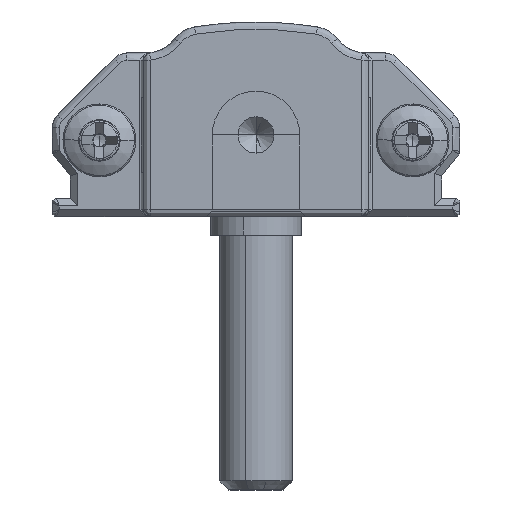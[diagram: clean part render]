
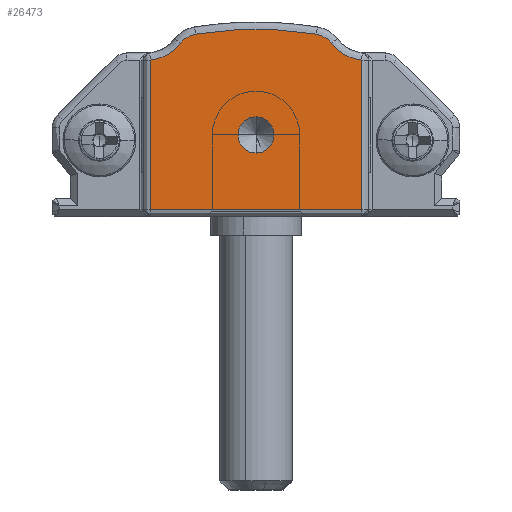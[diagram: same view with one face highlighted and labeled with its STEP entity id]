
A CAD part, front view. The second image highlights one B-rep face of the part: STEP entity #26473.
In plain terms, the highlighted planar face has unit normal (0, -1, 0).
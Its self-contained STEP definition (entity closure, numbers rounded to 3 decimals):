
#108 = VERTEX_POINT ( 'NONE', #7653 ) ;
#305 = CARTESIAN_POINT ( 'NONE',  ( 17., -15., 0.4 ) ) ;
#540 = ORIENTED_EDGE ( 'NONE', *, *, #19722, .T. ) ;
#632 = CARTESIAN_POINT ( 'NONE',  ( 7.892, -15., 10.034 ) ) ;
#833 = CARTESIAN_POINT ( 'NONE',  ( 11.2, -15., 5.5 ) ) ;
#834 = CARTESIAN_POINT ( 'NONE',  ( 11.2, -15., -10.376 ) ) ;
#843 = VERTEX_POINT ( 'NONE', #305 ) ;
#922 = CARTESIAN_POINT ( 'NONE',  ( 17., -15., 0.4 ) ) ;
#1004 = DIRECTION ( 'NONE',  ( 0., 0., -1. ) ) ;
#1079 = DIRECTION ( 'NONE',  ( 1., 0., 0. ) ) ;
#1179 = ORIENTED_EDGE ( 'NONE', *, *, #16811, .T. ) ;
#1608 = CIRCLE ( 'NONE', #18089, 2.4 ) ;
#2398 = DIRECTION ( 'NONE',  ( 0., 0., -1. ) ) ;
#2845 = EDGE_CURVE ( 'NONE', #16185, #843, #5943, .T. ) ;
#2926 = VECTOR ( 'NONE', #1079, 1000. ) ;
#3393 = CARTESIAN_POINT ( 'NONE',  ( 11.2, -15., 3.5 ) ) ;
#3506 = EDGE_CURVE ( 'NONE', #108, #32441, #22585, .T. ) ;
#3589 = CIRCLE ( 'NONE', #16325, 1.3 ) ;
#4608 = DIRECTION ( 'NONE',  ( 0., 0., -1. ) ) ;
#5943 = LINE ( 'NONE', #922, #2926 ) ;
#6055 = EDGE_CURVE ( 'NONE', #843, #14931, #8566, .T. ) ;
#6174 = DIRECTION ( 'NONE',  ( 0., -1., 0. ) ) ;
#7212 = FACE_OUTER_BOUND ( 'NONE', #21965, .T. ) ;
#7372 = DIRECTION ( 'NONE',  ( 0., 0., -1. ) ) ;
#7653 = CARTESIAN_POINT ( 'NONE',  ( 14.508, -15., 10.034 ) ) ;
#8566 = LINE ( 'NONE', #18692, #29287 ) ;
#8666 = VECTOR ( 'NONE', #4608, 1000. ) ;
#8892 = CARTESIAN_POINT ( 'NONE',  ( 7.068, -15., 9.541 ) ) ;
#8905 = DIRECTION ( 'NONE',  ( 0., 0., -1. ) ) ;
#9791 = VERTEX_POINT ( 'NONE', #30704 ) ;
#9981 = DIRECTION ( 'NONE',  ( 0., 0., -1. ) ) ;
#10154 = CARTESIAN_POINT ( 'NONE',  ( 14.3, -15., 8.75 ) ) ;
#10218 = CARTESIAN_POINT ( 'NONE',  ( 11.2, -15., 4.5 ) ) ;
#10581 = CIRCLE ( 'NONE', #17946, 2.4 ) ;
#10741 = ORIENTED_EDGE ( 'NONE', *, *, #31727, .F. ) ;
#11157 = ORIENTED_EDGE ( 'NONE', *, *, #6055, .T. ) ;
#11627 = ORIENTED_EDGE ( 'NONE', *, *, #12289, .F. ) ;
#11732 = VERTEX_POINT ( 'NONE', #8892 ) ;
#11956 = CARTESIAN_POINT ( 'NONE',  ( 5.4, -15., 0.4 ) ) ;
#12289 = EDGE_CURVE ( 'NONE', #23351, #17395, #25322, .T. ) ;
#12498 = DIRECTION ( 'NONE',  ( 0., -1., 0. ) ) ;
#13618 = CARTESIAN_POINT ( 'NONE',  ( 11.2, -15., 4.5 ) ) ;
#13739 = DIRECTION ( 'NONE',  ( 0., 0., 1. ) ) ;
#14868 = PLANE ( 'NONE',  #26158 ) ;
#14931 = VERTEX_POINT ( 'NONE', #24969 ) ;
#15391 = EDGE_CURVE ( 'NONE', #32205, #16185, #24538, .T. ) ;
#15430 = AXIS2_PLACEMENT_3D ( 'NONE', #10218, #29943, #25122 ) ;
#15834 = DIRECTION ( 'NONE',  ( 0., 0., -1. ) ) ;
#16185 = VERTEX_POINT ( 'NONE', #26565 ) ;
#16325 = AXIS2_PLACEMENT_3D ( 'NONE', #10154, #12498, #30699 ) ;
#16811 = EDGE_CURVE ( 'NONE', #14931, #9791, #10581, .T. ) ;
#16993 = CIRCLE ( 'NONE', #15430, 1. ) ;
#17074 = ORIENTED_EDGE ( 'NONE', *, *, #3506, .T. ) ;
#17302 = CARTESIAN_POINT ( 'NONE',  ( 22.15, -15., 3.606 ) ) ;
#17395 = VERTEX_POINT ( 'NONE', #3393 ) ;
#17946 = AXIS2_PLACEMENT_3D ( 'NONE', #24107, #26102, #15834 ) ;
#18089 = AXIS2_PLACEMENT_3D ( 'NONE', #30273, #24041, #2398 ) ;
#18171 = ORIENTED_EDGE ( 'NONE', *, *, #30230, .T. ) ;
#18692 = CARTESIAN_POINT ( 'NONE',  ( 17., -15., 8.612 ) ) ;
#19722 = EDGE_CURVE ( 'NONE', #32441, #11732, #21877, .T. ) ;
#20502 = CARTESIAN_POINT ( 'NONE',  ( 5.4, -15., 8.612 ) ) ;
#21361 = DIRECTION ( 'NONE',  ( 0., -1., 0. ) ) ;
#21877 = CIRCLE ( 'NONE', #31385, 1.3 ) ;
#21930 = ORIENTED_EDGE ( 'NONE', *, *, #32069, .T. ) ;
#21965 = EDGE_LOOP ( 'NONE', ( #11157, #1179, #18171, #17074, #540, #21930, #27301, #25337 ) ) ;
#22141 = AXIS2_PLACEMENT_3D ( 'NONE', #13618, #21361, #8905 ) ;
#22369 = EDGE_LOOP ( 'NONE', ( #10741, #11627 ) ) ;
#22585 = CIRCLE ( 'NONE', #23670, 20.676 ) ;
#23351 = VERTEX_POINT ( 'NONE', #833 ) ;
#23670 = AXIS2_PLACEMENT_3D ( 'NONE', #834, #6174, #1004 ) ;
#24041 = DIRECTION ( 'NONE',  ( 0., 1., 0. ) ) ;
#24107 = CARTESIAN_POINT ( 'NONE',  ( 17.238, -15., 11. ) ) ;
#24538 = LINE ( 'NONE', #11956, #8666 ) ;
#24944 = DIRECTION ( 'NONE',  ( 0., -1., 0. ) ) ;
#24969 = CARTESIAN_POINT ( 'NONE',  ( 17., -15., 8.612 ) ) ;
#25118 = FACE_BOUND ( 'NONE', #22369, .T. ) ;
#25122 = DIRECTION ( 'NONE',  ( 0., 0., -1. ) ) ;
#25322 = CIRCLE ( 'NONE', #22141, 1. ) ;
#25337 = ORIENTED_EDGE ( 'NONE', *, *, #2845, .T. ) ;
#26102 = DIRECTION ( 'NONE',  ( 0., 1., 0. ) ) ;
#26158 = AXIS2_PLACEMENT_3D ( 'NONE', #17302, #24944, #7372 ) ;
#26473 = ADVANCED_FACE ( 'NONE', ( #7212, #25118 ), #14868, .T. ) ;
#26565 = CARTESIAN_POINT ( 'NONE',  ( 5.4, -15., 0.4 ) ) ;
#26760 = CARTESIAN_POINT ( 'NONE',  ( 8.1, -15., 8.75 ) ) ;
#27301 = ORIENTED_EDGE ( 'NONE', *, *, #15391, .T. ) ;
#29071 = DIRECTION ( 'NONE',  ( 0., -1., 0. ) ) ;
#29287 = VECTOR ( 'NONE', #13739, 1000. ) ;
#29943 = DIRECTION ( 'NONE',  ( 0., -1., 0. ) ) ;
#30230 = EDGE_CURVE ( 'NONE', #9791, #108, #3589, .T. ) ;
#30273 = CARTESIAN_POINT ( 'NONE',  ( 5.162, -15., 11. ) ) ;
#30699 = DIRECTION ( 'NONE',  ( 0., 0., -1. ) ) ;
#30704 = CARTESIAN_POINT ( 'NONE',  ( 15.332, -15., 9.541 ) ) ;
#31385 = AXIS2_PLACEMENT_3D ( 'NONE', #26760, #29071, #9981 ) ;
#31727 = EDGE_CURVE ( 'NONE', #17395, #23351, #16993, .T. ) ;
#32069 = EDGE_CURVE ( 'NONE', #11732, #32205, #1608, .T. ) ;
#32205 = VERTEX_POINT ( 'NONE', #20502 ) ;
#32441 = VERTEX_POINT ( 'NONE', #632 ) ;
